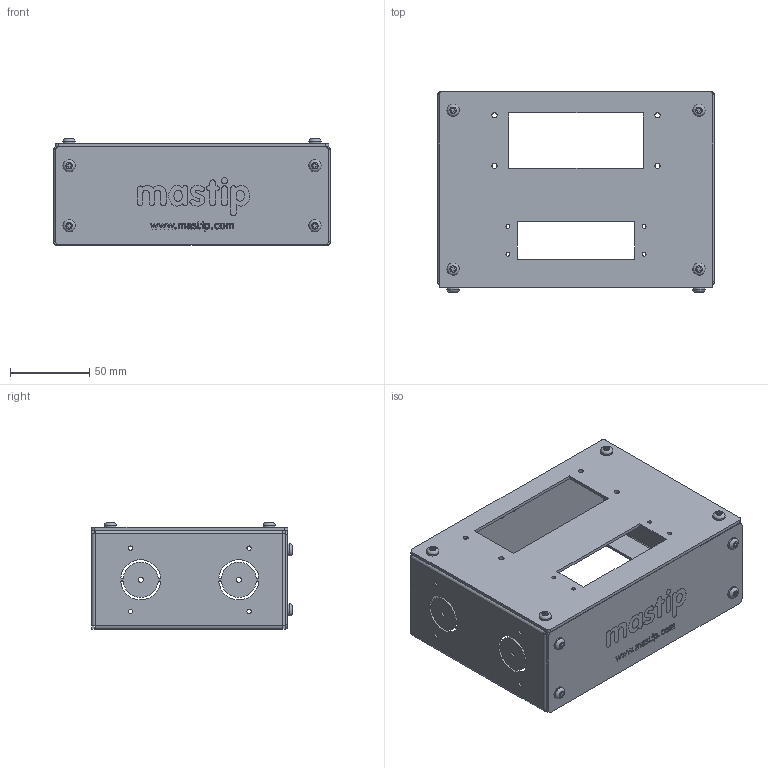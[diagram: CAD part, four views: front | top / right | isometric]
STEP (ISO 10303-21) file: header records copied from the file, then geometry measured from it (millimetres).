
FILE_DESCRIPTION(/* description */ (''),/* implementation_level */ '2;1');
FILE_NAME(/* name */ '79-010-609_TMBAssem2Row-1x16Pin1x25Pin.stp',/* time_stamp */ '2019-07-30T14:10:05+12:00',/* author */ (''),/* organization */ (''),/* preprocessor_version */ 'ST-DEVELOPER v16',/* originating_system */ 'SIEMENS PLM Software NX 10.0',/* authorisation */ '');
FILE_SCHEMA (('AP203_CONFIGURATION_CONTROLLED_3D_DESIGN_OF_MECHANICAL_PARTS_AND_ASSEMBLIES_MIM_LF { 1 0 10303 403 2 1 2}'));
Length unit declared in the file: millimetre
Products named in the file (1): matt1EE0728Ff9rk
Bounding box: 175 x 126.8 x 67.3 mm (x, y, z)
Volume: 107527.1 mm3; surface area: 133364.2 mm2
Topology: 19 solids, 19 shells, 723 faces, 1904 edges, 1270 vertices
Faces by surface type: plane 358, cylinder 301, extrusion 32, cone 24, torus 8
Full cylindrical faces by diameter (mm): 2.5 x4, 2.75 x16, 3.2 x4, 3.3 x4, 3.5 x8, 3.829 x1, 4 x8, 5 x8, 5.35 x8, 5.4 x8, 7 x6, 7.7 x8, 7.9 x8
Entity records: 22691 total; most frequent: CARTESIAN_POINT 5154, DIRECTION 3602, ORIENTED_EDGE 3394, EDGE_CURVE 1697, AXIS2_PLACEMENT_3D 1374, VERTEX_POINT 1188, EDGE_LOOP 1035, VECTOR 854
